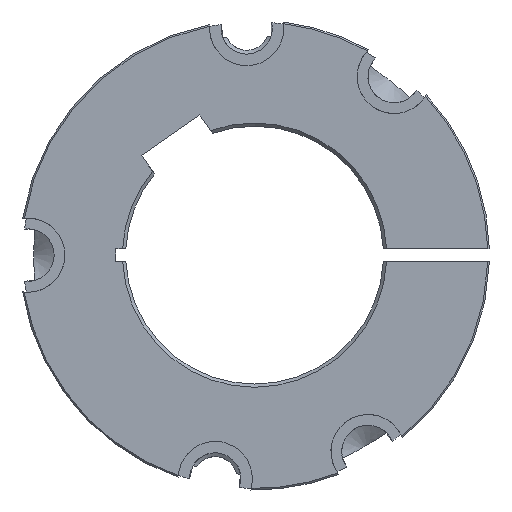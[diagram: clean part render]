
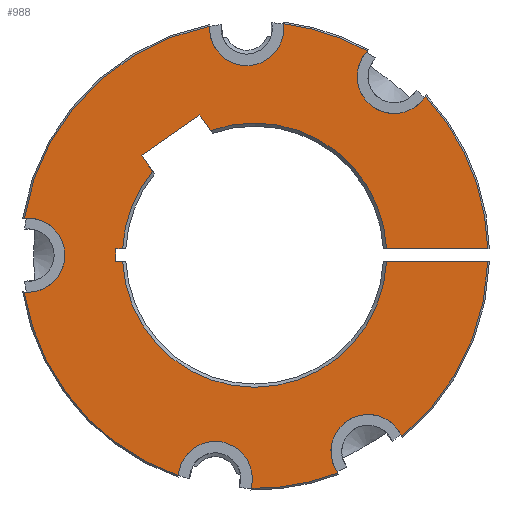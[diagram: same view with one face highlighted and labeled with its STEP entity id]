
A CAD part, left-side view. The second image highlights one B-rep face of the part: STEP entity #988.
In plain terms, the highlighted planar face has unit normal (-1, 0, 0).
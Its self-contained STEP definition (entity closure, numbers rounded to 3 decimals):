
#17=LINE('',#1873,#53);
#18=LINE('',#1877,#54);
#19=LINE('',#1879,#55);
#20=LINE('',#1881,#56);
#21=LINE('',#1885,#57);
#22=LINE('',#1889,#58);
#23=LINE('',#1893,#59);
#24=LINE('',#1896,#60);
#53=VECTOR('',#1306,31.406);
#54=VECTOR('',#1309,2.164);
#55=VECTOR('',#1310,4.);
#56=VECTOR('',#1311,2.164);
#57=VECTOR('',#1314,5.893);
#58=VECTOR('',#1317,21.98);
#59=VECTOR('',#1320,5.893);
#60=VECTOR('',#1323,31.406);
#119=PLANE('',#1093);
#159=FACE_OUTER_BOUND('',#214,.T.);
#214=EDGE_LOOP('',(#785,#786,#787,#788,#789,#790,#791,#792,#793,#794,#795,
#796,#797,#798,#799,#800,#801,#802,#803,#804,#805,#806,#807,#808));
#244=CIRCLE('',#1023,11.5);
#250=CIRCLE('',#1033,11.5);
#256=CIRCLE('',#1043,11.5);
#261=CIRCLE('',#1051,72.385);
#267=CIRCLE('',#1059,72.385);
#272=CIRCLE('',#1066,72.385);
#283=CIRCLE('',#1085,11.5);
#286=CIRCLE('',#1091,11.5);
#287=CIRCLE('',#1094,72.385);
#288=CIRCLE('',#1095,72.385);
#289=CIRCLE('',#1096,72.385);
#290=CIRCLE('',#1097,41.);
#291=CIRCLE('',#1098,41.);
#292=CIRCLE('',#1099,0.01);
#293=CIRCLE('',#1100,0.01);
#294=CIRCLE('',#1101,41.);
#359=VERTEX_POINT('',#1462);
#360=VERTEX_POINT('',#1467);
#369=VERTEX_POINT('',#1536);
#370=VERTEX_POINT('',#1541);
#379=VERTEX_POINT('',#1610);
#380=VERTEX_POINT('',#1615);
#390=VERTEX_POINT('',#1684);
#403=VERTEX_POINT('',#1750);
#412=VERTEX_POINT('',#1795);
#418=VERTEX_POINT('',#1849);
#419=VERTEX_POINT('',#1860);
#420=VERTEX_POINT('',#1870);
#421=VERTEX_POINT('',#1872);
#422=VERTEX_POINT('',#1874);
#423=VERTEX_POINT('',#1876);
#424=VERTEX_POINT('',#1878);
#425=VERTEX_POINT('',#1880);
#426=VERTEX_POINT('',#1882);
#427=VERTEX_POINT('',#1884);
#428=VERTEX_POINT('',#1886);
#429=VERTEX_POINT('',#1888);
#430=VERTEX_POINT('',#1890);
#431=VERTEX_POINT('',#1892);
#432=VERTEX_POINT('',#1894);
#466=EDGE_CURVE('',#360,#359,#244,.T.);
#479=EDGE_CURVE('',#370,#369,#250,.T.);
#492=EDGE_CURVE('',#380,#379,#256,.T.);
#506=EDGE_CURVE('',#390,#360,#261,.T.);
#521=EDGE_CURVE('',#403,#370,#267,.T.);
#532=EDGE_CURVE('',#412,#380,#272,.T.);
#549=EDGE_CURVE('',#418,#412,#283,.T.);
#553=EDGE_CURVE('',#419,#403,#286,.T.);
#555=EDGE_CURVE('',#359,#419,#287,.T.);
#556=EDGE_CURVE('',#369,#418,#288,.T.);
#557=EDGE_CURVE('',#379,#420,#289,.T.);
#558=EDGE_CURVE('',#420,#421,#17,.T.);
#559=EDGE_CURVE('',#422,#421,#290,.T.);
#560=EDGE_CURVE('',#422,#423,#18,.T.);
#561=EDGE_CURVE('',#423,#424,#19,.T.);
#562=EDGE_CURVE('',#424,#425,#20,.T.);
#563=EDGE_CURVE('',#426,#425,#291,.T.);
#564=EDGE_CURVE('',#426,#427,#21,.T.);
#565=EDGE_CURVE('',#427,#428,#292,.T.);
#566=EDGE_CURVE('',#428,#429,#22,.T.);
#567=EDGE_CURVE('',#429,#430,#293,.T.);
#568=EDGE_CURVE('',#430,#431,#23,.T.);
#569=EDGE_CURVE('',#432,#431,#294,.T.);
#570=EDGE_CURVE('',#432,#390,#24,.T.);
#785=ORIENTED_EDGE('',*,*,#466,.T.);
#786=ORIENTED_EDGE('',*,*,#555,.T.);
#787=ORIENTED_EDGE('',*,*,#553,.T.);
#788=ORIENTED_EDGE('',*,*,#521,.T.);
#789=ORIENTED_EDGE('',*,*,#479,.T.);
#790=ORIENTED_EDGE('',*,*,#556,.T.);
#791=ORIENTED_EDGE('',*,*,#549,.T.);
#792=ORIENTED_EDGE('',*,*,#532,.T.);
#793=ORIENTED_EDGE('',*,*,#492,.T.);
#794=ORIENTED_EDGE('',*,*,#557,.T.);
#795=ORIENTED_EDGE('',*,*,#558,.T.);
#796=ORIENTED_EDGE('',*,*,#559,.F.);
#797=ORIENTED_EDGE('',*,*,#560,.T.);
#798=ORIENTED_EDGE('',*,*,#561,.T.);
#799=ORIENTED_EDGE('',*,*,#562,.T.);
#800=ORIENTED_EDGE('',*,*,#563,.F.);
#801=ORIENTED_EDGE('',*,*,#564,.T.);
#802=ORIENTED_EDGE('',*,*,#565,.T.);
#803=ORIENTED_EDGE('',*,*,#566,.T.);
#804=ORIENTED_EDGE('',*,*,#567,.T.);
#805=ORIENTED_EDGE('',*,*,#568,.T.);
#806=ORIENTED_EDGE('',*,*,#569,.F.);
#807=ORIENTED_EDGE('',*,*,#570,.T.);
#808=ORIENTED_EDGE('',*,*,#506,.T.);
#988=ADVANCED_FACE('',(#159),#119,.T.);
#1023=AXIS2_PLACEMENT_3D('',#1468,#1156,#1157);
#1033=AXIS2_PLACEMENT_3D('',#1542,#1176,#1177);
#1043=AXIS2_PLACEMENT_3D('',#1616,#1196,#1197);
#1051=AXIS2_PLACEMENT_3D('',#1685,#1212,#1213);
#1059=AXIS2_PLACEMENT_3D('',#1751,#1229,#1230);
#1066=AXIS2_PLACEMENT_3D('',#1796,#1243,#1244);
#1085=AXIS2_PLACEMENT_3D('',#1850,#1282,#1283);
#1091=AXIS2_PLACEMENT_3D('',#1861,#1294,#1295);
#1093=AXIS2_PLACEMENT_3D('',#1867,#1298,#1299);
#1094=AXIS2_PLACEMENT_3D('',#1868,#1300,#1301);
#1095=AXIS2_PLACEMENT_3D('',#1869,#1302,#1303);
#1096=AXIS2_PLACEMENT_3D('',#1871,#1304,#1305);
#1097=AXIS2_PLACEMENT_3D('',#1875,#1307,#1308);
#1098=AXIS2_PLACEMENT_3D('',#1883,#1312,#1313);
#1099=AXIS2_PLACEMENT_3D('',#1887,#1315,#1316);
#1100=AXIS2_PLACEMENT_3D('',#1891,#1318,#1319);
#1101=AXIS2_PLACEMENT_3D('',#1895,#1321,#1322);
#1156=DIRECTION('center_axis',(1.,0.,0.));
#1157=DIRECTION('ref_axis',(0.,0.,1.));
#1176=DIRECTION('center_axis',(1.,0.,0.));
#1177=DIRECTION('ref_axis',(0.,0.,1.));
#1196=DIRECTION('center_axis',(1.,0.,0.));
#1197=DIRECTION('ref_axis',(0.,0.,1.));
#1212=DIRECTION('center_axis',(-1.,0.,0.));
#1213=DIRECTION('ref_axis',(0.,0.,1.));
#1229=DIRECTION('center_axis',(-1.,0.,0.));
#1230=DIRECTION('ref_axis',(0.,0.,1.));
#1243=DIRECTION('center_axis',(-1.,0.,0.));
#1244=DIRECTION('ref_axis',(0.,0.,1.));
#1282=DIRECTION('center_axis',(1.,0.,0.));
#1283=DIRECTION('ref_axis',(0.,0.,1.));
#1294=DIRECTION('center_axis',(1.,0.,0.));
#1295=DIRECTION('ref_axis',(0.,0.,1.));
#1298=DIRECTION('center_axis',(-1.,0.,0.));
#1299=DIRECTION('ref_axis',(0.,0.,1.));
#1300=DIRECTION('center_axis',(-1.,0.,0.));
#1301=DIRECTION('ref_axis',(0.,0.,1.));
#1302=DIRECTION('center_axis',(-1.,0.,0.));
#1303=DIRECTION('ref_axis',(0.,0.,1.));
#1304=DIRECTION('center_axis',(-1.,0.,0.));
#1305=DIRECTION('ref_axis',(0.,0.,1.));
#1306=DIRECTION('',(0.,1.,0.));
#1307=DIRECTION('center_axis',(-1.,0.,0.));
#1308=DIRECTION('ref_axis',(0.,0.,1.));
#1309=DIRECTION('',(0.,1.,0.));
#1310=DIRECTION('',(0.,0.,1.));
#1311=DIRECTION('',(0.,-1.,0.));
#1312=DIRECTION('center_axis',(-1.,0.,0.));
#1313=DIRECTION('ref_axis',(0.,0.,1.));
#1314=DIRECTION('',(0.,0.574,0.819));
#1315=DIRECTION('center_axis',(1.,0.,0.));
#1316=DIRECTION('ref_axis',(0.,-0.574,-0.819));
#1317=DIRECTION('',(0.,-0.819,0.574));
#1318=DIRECTION('center_axis',(1.,0.,0.));
#1319=DIRECTION('ref_axis',(0.,0.819,-0.574));
#1320=DIRECTION('',(0.,-0.574,-0.819));
#1321=DIRECTION('center_axis',(-1.,0.,0.));
#1322=DIRECTION('ref_axis',(0.,0.,1.));
#1323=DIRECTION('',(0.,-1.,0.));
#1462=CARTESIAN_POINT('',(-23.794,21.135,63.369));
#1467=CARTESIAN_POINT('',(-23.794,3.096,49.276));
#1468=CARTESIAN_POINT('Origin',(-23.794,12.803,55.443));
#1536=CARTESIAN_POINT('',(-23.794,127.594,-11.446));
#1541=CARTESIAN_POINT('',(-23.794,127.594,11.446));
#1542=CARTESIAN_POINT('Origin',(-23.794,126.478,0.));
#1610=CARTESIAN_POINT('',(-23.794,10.47,-56.176));
#1615=CARTESIAN_POINT('',(-23.794,30.295,-67.621));
#1616=CARTESIAN_POINT('Origin',(-23.794,20.941,-60.932));
#1684=CARTESIAN_POINT('',(-23.794,-16.238,2.));
#1685=CARTESIAN_POINT('Origin',(-23.794,56.12,0.));
#1750=CARTESIAN_POINT('',(-23.794,70.053,71.031));
#1751=CARTESIAN_POINT('Origin',(-23.794,56.12,0.));
#1795=CARTESIAN_POINT('',(-23.794,57.259,-72.376));
#1796=CARTESIAN_POINT('Origin',(-23.794,56.12,0.));
#1849=CARTESIAN_POINT('',(-23.794,79.803,-68.401));
#1850=CARTESIAN_POINT('Origin',(-23.794,68.337,-69.289));
#1860=CARTESIAN_POINT('',(-23.794,47.175,71.83));
#1861=CARTESIAN_POINT('Origin',(-23.794,58.575,70.315));
#1867=CARTESIAN_POINT('Origin',(-23.794,1.303,0.));
#1868=CARTESIAN_POINT('Origin',(-23.794,56.12,0.));
#1869=CARTESIAN_POINT('Origin',(-23.794,56.12,0.));
#1870=CARTESIAN_POINT('',(-23.794,-16.238,-2.));
#1871=CARTESIAN_POINT('Origin',(-23.794,56.12,0.));
#1872=CARTESIAN_POINT('',(-23.794,15.168,-2.));
#1873=CARTESIAN_POINT('',(-23.794,-7.467,-2.));
#1874=CARTESIAN_POINT('',(-23.794,97.071,-2.));
#1875=CARTESIAN_POINT('Origin',(-23.794,56.12,0.));
#1876=CARTESIAN_POINT('',(-23.794,99.235,-2.));
#1877=CARTESIAN_POINT('',(-23.794,48.937,-2.));
#1878=CARTESIAN_POINT('',(-23.794,99.235,2.));
#1879=CARTESIAN_POINT('',(-23.794,99.235,1.));
#1880=CARTESIAN_POINT('',(-23.794,97.071,2.));
#1881=CARTESIAN_POINT('',(-23.794,48.686,2.));
#1882=CARTESIAN_POINT('',(-23.794,87.785,26.045));
#1883=CARTESIAN_POINT('Origin',(-23.794,56.12,0.));
#1884=CARTESIAN_POINT('',(-23.794,91.165,30.872));
#1885=CARTESIAN_POINT('',(-23.794,67.292,-3.223));
#1886=CARTESIAN_POINT('',(-23.794,91.162,30.886));
#1887=CARTESIAN_POINT('Origin',(-23.794,91.157,30.878));
#1888=CARTESIAN_POINT('',(-23.794,73.158,43.493));
#1889=CARTESIAN_POINT('',(-23.794,59.267,53.219));
#1890=CARTESIAN_POINT('',(-23.794,73.144,43.491));
#1891=CARTESIAN_POINT('Origin',(-23.794,73.152,43.485));
#1892=CARTESIAN_POINT('',(-23.794,69.763,38.663));
#1893=CARTESIAN_POINT('',(-23.794,49.121,9.183));
#1894=CARTESIAN_POINT('',(-23.794,15.168,2.));
#1895=CARTESIAN_POINT('Origin',(-23.794,56.12,0.));
#1896=CARTESIAN_POINT('',(-23.794,-7.718,2.));
